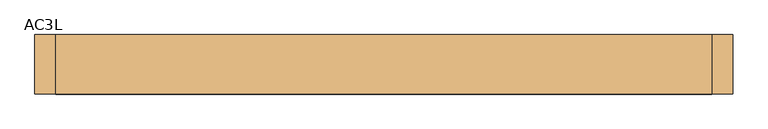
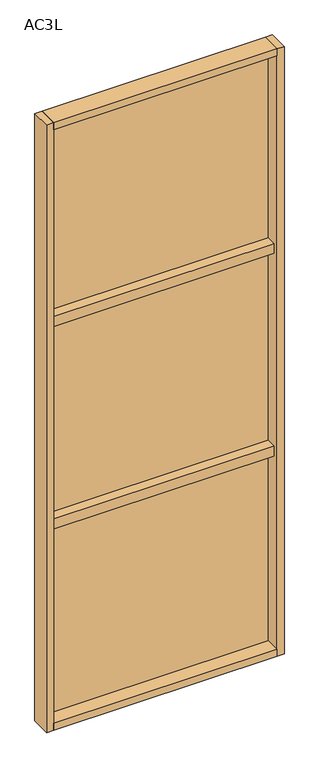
"""IFC4 building model written with IfcOpenShell, lengths in millimetres: door geometry, Mobiliário_Mobiliário de Escritório_Painel Lambri - AC3L (Completo)_Marelli : AC3L."""

from ifc_helpers import new_model, si_unit, frame, origin, origin_with_axes, place, context, project, spatial, polyline, outline, extrude, source, transform, mapped, element, save


def ac3l_a931b1db(model_context):
    return source(origin(), model_context, "Body", "SweptSolid", [
        extrude(outline(polyline([(470.0, 42.5), (470.0, -42.5), (-470.0, -42.5), (-470.0, 42.5), (470.0, 42.5)])), origin_with_axes(), (0.0, 0.0, 1.0), 30.0),
        extrude(outline(polyline([(470.0, 39.5), (470.0, 21.5), (-470.0, 21.5), (-470.0, 39.5), (470.0, 39.5)])), frame((0.0, 0.0, 30.0), z_axis=(0.0, 0.0, 1.0), x_axis=(1.0, 0.0, 0.0)), (0.0, 0.0, 1.0), 865.0),
        extrude(outline(polyline([(470.0, 21.5), (470.0, -21.5), (-470.0, -21.5), (-470.0, 21.5), (470.0, 21.5)])), frame((0.0, 0.0, 878.5), z_axis=(0.0, 0.0, 1.0), x_axis=(1.0, 0.0, 0.0)), (0.0, 0.0, 1.0), 43.0),
        extrude(outline(polyline([(470.0, 42.5), (470.0, -42.5), (-470.0, -42.5), (-470.0, 42.5), (470.0, 42.5)])), frame((0.0, 0.0, 2670.0), z_axis=(0.0, 0.0, 1.0), x_axis=(1.0, 0.0, 0.0)), (0.0, 0.0, 1.0), 30.0),
        extrude(outline(polyline([(470.0, 21.5), (470.0, -21.5), (-470.0, -21.5), (-470.0, 21.5), (470.0, 21.5)])), frame((0.0, 0.0, 1778.5), z_axis=(0.0, 0.0, 1.0), x_axis=(1.0, 0.0, 0.0)), (0.0, 0.0, 1.0), 43.0),
        extrude(outline(polyline([(-500.0, -42.5), (-500.0, 42.5), (-470.0, 42.5), (-470.0, -42.5), (-500.0, -42.5)])), origin_with_axes(), (0.0, 0.0, 1.0), 2700.0),
        extrude(outline(polyline([(500.0, -42.5), (470.0, -42.5), (470.0, 42.5), (500.0, 42.5), (500.0, -42.5)])), origin_with_axes(), (0.0, 0.0, 1.0), 2700.0),
        extrude(outline(polyline([(470.0, 39.5), (470.0, 21.5), (-470.0, 21.5), (-470.0, 39.5), (470.0, 39.5)])), frame((0.0, 0.0, 905.0), z_axis=(0.0, 0.0, 1.0), x_axis=(1.0, 0.0, 0.0)), (0.0, 0.0, 1.0), 890.0),
        extrude(outline(polyline([(470.0, 39.5), (470.0, 21.5), (-470.0, 21.5), (-470.0, 39.5), (470.0, 39.5)])), frame((0.0, 0.0, 1805.0), z_axis=(0.0, 0.0, 1.0), x_axis=(1.0, 0.0, 0.0)), (0.0, 0.0, 1.0), 865.0),
    ])


if __name__ == "__main__":
    model = new_model("IFC4")
    model_context = context("Model", 3, world=origin())
    ifc_project = project(units=[si_unit("LENGTHUNIT", "METRE", prefix="MILLI")], contexts=[model_context])
    site = spatial("IfcSite", under=ifc_project)
    building = spatial("IfcBuilding", under=site)
    placement = place(None, origin())
    ac3l_shape = ac3l_a931b1db(model_context)
    element("IfcDoor", 1, ObjectType="Mobiliário_Mobiliário de Escritório_Painel Lambri - AC3L (Completo)_Marelli : AC3L", at=placement, inside=building, context=model_context, shape_type="MappedRepresentation", body=[
        mapped(ac3l_shape, transform((0.0, 0.0, 0.0), x_axis=(1.0, 0.0, 0.0), y_axis=(0.0, 1.0, 0.0), z_axis=(0.0, 0.0, 1.0))),
    ])
    save(model, "model.ifc")
